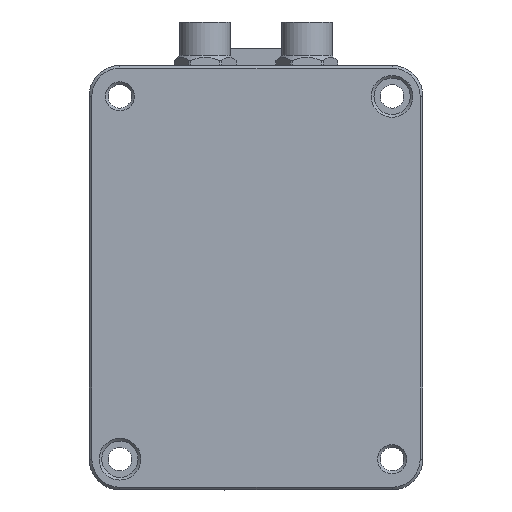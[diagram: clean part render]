
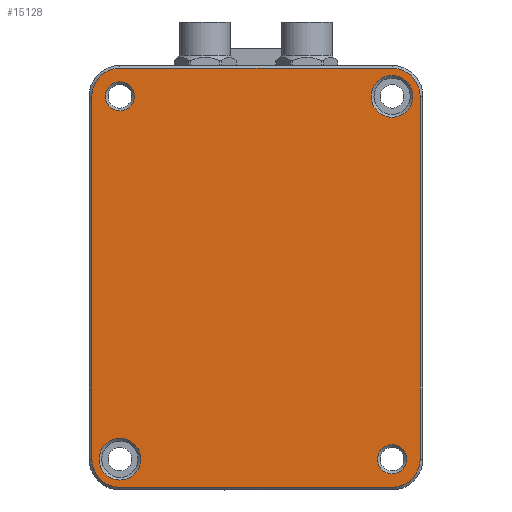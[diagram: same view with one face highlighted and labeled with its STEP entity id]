
A CAD part, front view. The second image highlights one B-rep face of the part: STEP entity #15128.
In plain terms, the highlighted planar face has unit normal (0, -1, 0).
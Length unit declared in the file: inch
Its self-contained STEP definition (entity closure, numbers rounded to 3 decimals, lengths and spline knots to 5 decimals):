
#618=FACE_BOUND('',#2169,.T.);
#619=FACE_BOUND('',#2170,.T.);
#620=FACE_BOUND('',#2171,.T.);
#621=FACE_BOUND('',#2172,.T.);
#712=PLANE('',#16016);
#1326=FACE_OUTER_BOUND('',#2168,.T.);
#2168=EDGE_LOOP('',(#9960,#9961,#9962,#9963,#9964,#9965,#9966,#9967));
#2169=EDGE_LOOP('',(#9968));
#2170=EDGE_LOOP('',(#9969));
#2171=EDGE_LOOP('',(#9970));
#2172=EDGE_LOOP('',(#9971));
#3102=LINE('',#20467,#4562);
#3103=LINE('',#20471,#4563);
#3104=LINE('',#20475,#4564);
#3105=LINE('',#20479,#4565);
#4562=VECTOR('',#17054,0.3937);
#4563=VECTOR('',#17057,0.3937);
#4564=VECTOR('',#17060,0.3937);
#4565=VECTOR('',#17063,0.3937);
#6027=CIRCLE('',#16015,0.15748);
#6028=CIRCLE('',#16017,0.30512);
#6029=CIRCLE('',#16018,0.30512);
#6030=CIRCLE('',#16019,0.30512);
#6031=CIRCLE('',#16020,0.30512);
#6032=CIRCLE('',#16021,0.22638);
#6033=CIRCLE('',#16022,0.15748);
#6034=CIRCLE('',#16023,0.22638);
#6336=VERTEX_POINT('',#20461);
#6337=VERTEX_POINT('',#20465);
#6338=VERTEX_POINT('',#20466);
#6339=VERTEX_POINT('',#20468);
#6340=VERTEX_POINT('',#20470);
#6341=VERTEX_POINT('',#20472);
#6342=VERTEX_POINT('',#20474);
#6343=VERTEX_POINT('',#20476);
#6344=VERTEX_POINT('',#20478);
#6345=VERTEX_POINT('',#20481);
#6346=VERTEX_POINT('',#20483);
#6347=VERTEX_POINT('',#20485);
#7767=EDGE_CURVE('',#6336,#6336,#6027,.T.);
#7768=EDGE_CURVE('',#6337,#6338,#3102,.T.);
#7769=EDGE_CURVE('',#6339,#6337,#6028,.T.);
#7770=EDGE_CURVE('',#6340,#6339,#3103,.T.);
#7771=EDGE_CURVE('',#6341,#6340,#6029,.T.);
#7772=EDGE_CURVE('',#6342,#6341,#3104,.T.);
#7773=EDGE_CURVE('',#6343,#6342,#6030,.T.);
#7774=EDGE_CURVE('',#6344,#6343,#3105,.T.);
#7775=EDGE_CURVE('',#6338,#6344,#6031,.T.);
#7776=EDGE_CURVE('',#6345,#6345,#6032,.T.);
#7777=EDGE_CURVE('',#6346,#6346,#6033,.T.);
#7778=EDGE_CURVE('',#6347,#6347,#6034,.T.);
#9960=ORIENTED_EDGE('',*,*,#7768,.F.);
#9961=ORIENTED_EDGE('',*,*,#7769,.F.);
#9962=ORIENTED_EDGE('',*,*,#7770,.F.);
#9963=ORIENTED_EDGE('',*,*,#7771,.F.);
#9964=ORIENTED_EDGE('',*,*,#7772,.F.);
#9965=ORIENTED_EDGE('',*,*,#7773,.F.);
#9966=ORIENTED_EDGE('',*,*,#7774,.F.);
#9967=ORIENTED_EDGE('',*,*,#7775,.F.);
#9968=ORIENTED_EDGE('',*,*,#7776,.F.);
#9969=ORIENTED_EDGE('',*,*,#7777,.F.);
#9970=ORIENTED_EDGE('',*,*,#7778,.F.);
#9971=ORIENTED_EDGE('',*,*,#7767,.F.);
#15128=ADVANCED_FACE('',(#1326,#618,#619,#620,#621),#712,.F.);
#16015=AXIS2_PLACEMENT_3D('',#20463,#17050,#17051);
#16016=AXIS2_PLACEMENT_3D('',#20464,#17052,#17053);
#16017=AXIS2_PLACEMENT_3D('',#20469,#17055,#17056);
#16018=AXIS2_PLACEMENT_3D('',#20473,#17058,#17059);
#16019=AXIS2_PLACEMENT_3D('',#20477,#17061,#17062);
#16020=AXIS2_PLACEMENT_3D('',#20480,#17064,#17065);
#16021=AXIS2_PLACEMENT_3D('',#20482,#17066,#17067);
#16022=AXIS2_PLACEMENT_3D('',#20484,#17068,#17069);
#16023=AXIS2_PLACEMENT_3D('',#20486,#17070,#17071);
#17050=DIRECTION('center_axis',(0.,-1.,0.));
#17051=DIRECTION('ref_axis',(0.,0.,
-1.));
#17052=DIRECTION('center_axis',(0.,1.,0.));
#17053=DIRECTION('ref_axis',(1.,0.,0.));
#17054=DIRECTION('',(0.,0.,1.));
#17055=DIRECTION('center_axis',(0.,1.,0.));
#17056=DIRECTION('ref_axis',(-1.,0.,0.));
#17057=DIRECTION('',(-1.,0.,0.));
#17058=DIRECTION('center_axis',(0.,1.,0.));
#17059=DIRECTION('ref_axis',(0.,0.,
-1.));
#17060=DIRECTION('',(0.,0.,-1.));
#17061=DIRECTION('center_axis',(0.,1.,0.));
#17062=DIRECTION('ref_axis',(1.,0.,0.));
#17063=DIRECTION('',(1.,0.,0.));
#17064=DIRECTION('center_axis',(0.,1.,0.));
#17065=DIRECTION('ref_axis',(0.,0.,
1.));
#17066=DIRECTION('center_axis',(0.,-1.,0.));
#17067=DIRECTION('ref_axis',(-1.,0.,0.));
#17068=DIRECTION('center_axis',(0.,-1.,0.));
#17069=DIRECTION('ref_axis',(0.,0.,
-1.));
#17070=DIRECTION('center_axis',(0.,-1.,0.));
#17071=DIRECTION('ref_axis',(-1.,0.,0.));
#20461=CARTESIAN_POINT('',(1.47638,0.,-1.3189));
#20463=CARTESIAN_POINT('Origin',(1.47638,0.,
-1.47638));
#20464=CARTESIAN_POINT('Origin',(0.,0.,
0.49213));
#20465=CARTESIAN_POINT('',(-1.7815,0.,-1.47638));
#20466=CARTESIAN_POINT('',(-1.7815,0.,2.46063));
#20467=CARTESIAN_POINT('',(-1.7815,0.,-0.49213));
#20468=CARTESIAN_POINT('',(-1.47638,0.,-1.7815));
#20469=CARTESIAN_POINT('Origin',(-1.47638,0.,
-1.47638));
#20470=CARTESIAN_POINT('',(1.47638,0.,-1.7815));
#20471=CARTESIAN_POINT('',(0.73819,0.,-1.7815));
#20472=CARTESIAN_POINT('',(1.7815,0.,-1.47638));
#20473=CARTESIAN_POINT('Origin',(1.47638,0.,
-1.47638));
#20474=CARTESIAN_POINT('',(1.7815,0.,2.46063));
#20475=CARTESIAN_POINT('',(1.7815,0.,1.47638));
#20476=CARTESIAN_POINT('',(1.47638,0.,2.76575));
#20477=CARTESIAN_POINT('Origin',(1.47638,0.,
2.46063));
#20478=CARTESIAN_POINT('',(-1.47638,0.,2.76575));
#20479=CARTESIAN_POINT('',(-0.73819,0.,2.76575));
#20480=CARTESIAN_POINT('Origin',(-1.47638,0.,
2.46063));
#20481=CARTESIAN_POINT('',(-1.25,0.,-1.47638));
#20482=CARTESIAN_POINT('Origin',(-1.47638,0.,
-1.47638));
#20483=CARTESIAN_POINT('',(-1.47638,0.,2.61811));
#20484=CARTESIAN_POINT('Origin',(-1.47638,0.,
2.46063));
#20485=CARTESIAN_POINT('',(1.70276,0.,2.46063));
#20486=CARTESIAN_POINT('Origin',(1.47638,0.,
2.46063));
